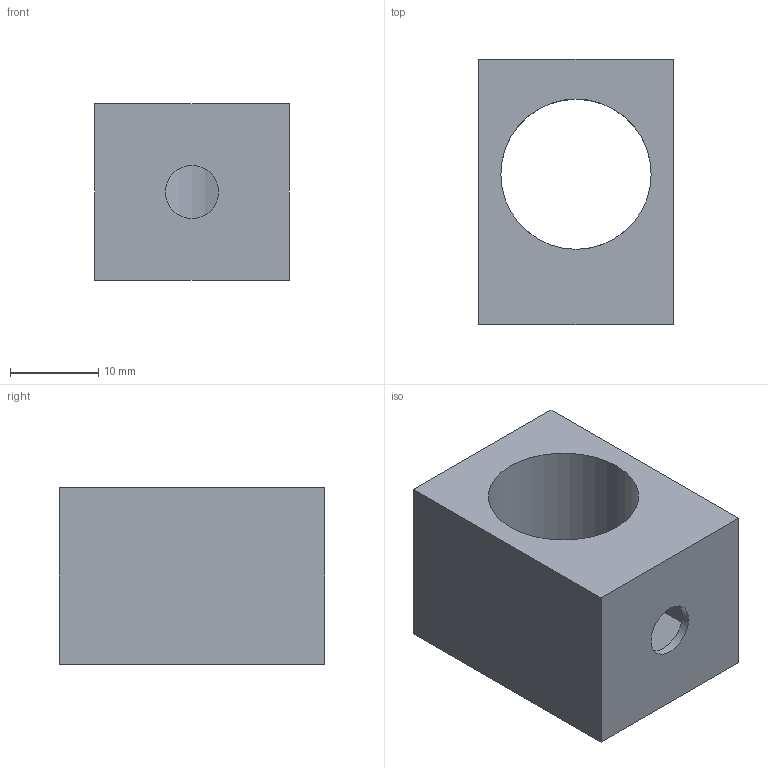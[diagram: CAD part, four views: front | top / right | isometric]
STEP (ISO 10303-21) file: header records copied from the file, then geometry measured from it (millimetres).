
FILE_DESCRIPTION(/* description */ (''),/* implementation_level */ '2;1');
FILE_NAME(/* name */ 'AxisHolder v1.step',/* time_stamp */ '2023-07-05T14:09:04+09:00',/* author */ (''),/* organization */ (''),/* preprocessor_version */ 'ST-DEVELOPER v19.2',/* originating_system */ 'Autodesk Translation Framework v12.6.0.85',/* authorisation */ '');
FILE_SCHEMA (('AUTOMOTIVE_DESIGN { 1 0 10303 214 3 1 1 }'));
Length unit declared in the file: millimetre
Products named in the file (1): AxisHolder
Bounding box: 22 x 30 x 20 mm (x, y, z)
Volume: 7945.4 mm3; surface area: 4265.3 mm2
Topology: 1 solids, 1 shells, 17 faces, 42 edges, 28 vertices
Faces by surface type: plane 15, cylinder 2
Full cylindrical faces by diameter (mm): 6 x1, 17 x1
Entity records: 545 total; most frequent: CARTESIAN_POINT 88, DIRECTION 86, ORIENTED_EDGE 84, EDGE_CURVE 42, LINE 34, VECTOR 34, VERTEX_POINT 28, AXIS2_PLACEMENT_3D 26
